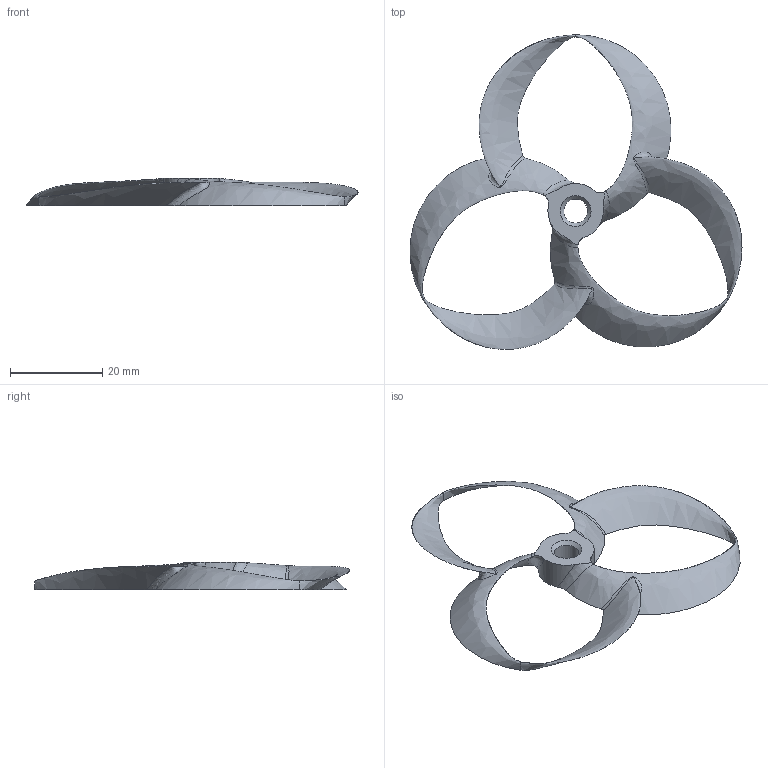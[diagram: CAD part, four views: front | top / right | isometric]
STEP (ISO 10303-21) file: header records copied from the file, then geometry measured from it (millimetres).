
FILE_DESCRIPTION(/* description */ (''),/* implementation_level */ '2;1');
FILE_NAME(/* name */ 'V3 Tri-Loop 3-3.5-inch.step',/* time_stamp */ '2023-02-14T12:12:59+07:00',/* author */ (''),/* organization */ (''),/* preprocessor_version */ 'ST-DEVELOPER v19.2',/* originating_system */ 'Autodesk Translation Framework v11.17.0.187',/* authorisation */ '');
FILE_SCHEMA (('AUTOMOTIVE_DESIGN { 1 0 10303 214 3 1 1 }'));
Length unit declared in the file: millimetre
Products named in the file (1): V3 Tri-Loop 3"
Bounding box: 71.95 x 68.21 x 6 mm (x, y, z)
Volume: 1853.7 mm3; surface area: 4450.6 mm2
Topology: 1 solids, 1 shells, 26 faces, 78 edges, 48 vertices
Faces by surface type: bspline 12, plane 8, cylinder 4, cone 2
Full cylindrical faces by diameter (mm): 5.2 x1
Entity records: 3826 total; most frequent: CARTESIAN_POINT 3201, ORIENTED_EDGE 156, DIRECTION 86, EDGE_CURVE 78, VERTEX_POINT 48, AXIS2_PLACEMENT_3D 40, B_SPLINE_CURVE_WITH_KNOTS 35, EDGE_LOOP 28
